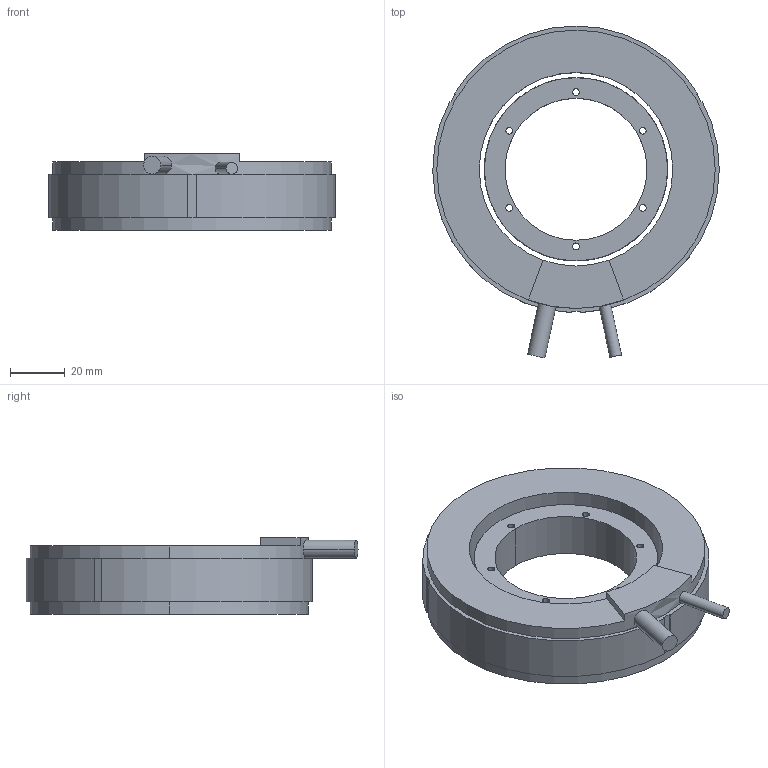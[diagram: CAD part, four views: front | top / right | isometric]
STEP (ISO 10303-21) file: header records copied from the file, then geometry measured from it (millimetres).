
FILE_DESCRIPTION (( 'STEP AP203' ), '1' );
FILE_NAME ('TMX105-25 3D.STEP', '2022-11-23T01:54:32', ( '' ), ( '' ), 'SwSTEP 2.0', 'SolidWorks 2021', '' );
FILE_SCHEMA (( 'CONFIG_CONTROL_DESIGN' ));
Length unit declared in the file: millimetre
Products named in the file (3): TMX105-25 3D; TMX105-25 KIT 3D; TM105-25 3D
Assembly tree (2 placements, depth 2):
  TMX105-25 3D
    TM105-25 3D
    TMX105-25 KIT 3D
Bounding box: 104.99 x 121.65 x 28 mm (x, y, z)
Volume: 138662.7 mm3; surface area: 33884.3 mm2
Topology: 2 solids, 2 shells, 190 faces, 451 edges, 286 vertices
Faces by surface type: plane 140, cylinder 50
Entity records: 5974 total; most frequent: DIRECTION 1057, CARTESIAN_POINT 1054, ORIENTED_EDGE 902, EDGE_CURVE 451, AXIS2_PLACEMENT_3D 415, VERTEX_POINT 286, EDGE_LOOP 227, VECTOR 227
